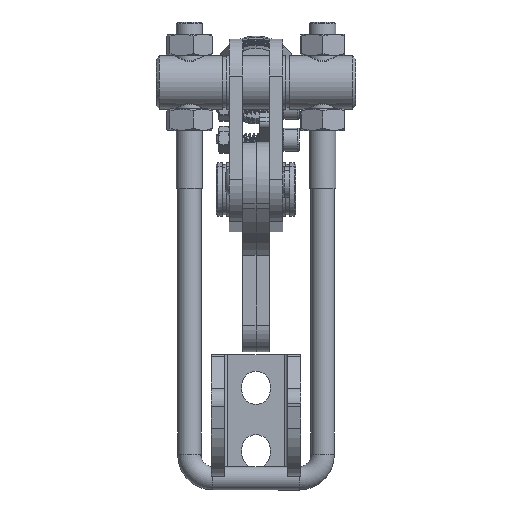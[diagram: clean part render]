
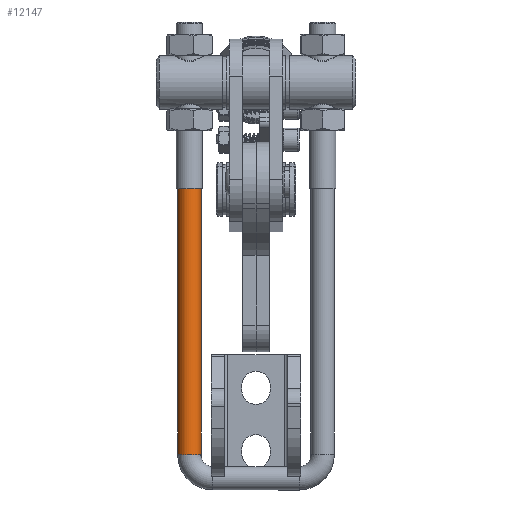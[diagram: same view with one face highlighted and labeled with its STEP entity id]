
A CAD part, left-side view. The second image highlights one B-rep face of the part: STEP entity #12147.
In plain terms, the highlighted cylindrical face has radius 3.5 mm (diameter 7 mm), a partial arc.
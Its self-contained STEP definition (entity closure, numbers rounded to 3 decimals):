
#320 = DIRECTION ( 'NONE',  ( 1., 0., 0. ) ) ;
#1135 = AXIS2_PLACEMENT_3D ( 'NONE', #10364, #320, #35030 ) ;
#1713 = VERTEX_POINT ( 'NONE', #11474 ) ;
#5692 = CARTESIAN_POINT ( 'NONE',  ( 7., 0., 23.5 ) ) ;
#7517 = EDGE_CURVE ( 'NONE', #1713, #17081, #60176, .T. ) ;
#7898 = CIRCLE ( 'NONE', #24484, 3.5 ) ;
#10297 = EDGE_CURVE ( 'NONE', #52150, #1713, #46197, .T. ) ;
#10364 = CARTESIAN_POINT ( 'NONE',  ( 87., 0., 20. ) ) ;
#11474 = CARTESIAN_POINT ( 'NONE',  ( 87., 0., 23.5 ) ) ;
#12147 = ADVANCED_FACE ( 'NONE', ( #32654 ), #44207, .T. ) ;
#12717 = VECTOR ( 'NONE', #46683, 1000. ) ;
#13210 = ORIENTED_EDGE ( 'NONE', *, *, #58636, .T. ) ;
#13699 = AXIS2_PLACEMENT_3D ( 'NONE', #52085, #54266, #37821 ) ;
#17081 = VERTEX_POINT ( 'NONE', #53298 ) ;
#21253 = DIRECTION ( 'NONE',  ( -1., 0., 0. ) ) ;
#23265 = EDGE_CURVE ( 'NONE', #41855, #52150, #7898, .T. ) ;
#24330 = CARTESIAN_POINT ( 'NONE',  ( 7., 0., 23.5 ) ) ;
#24484 = AXIS2_PLACEMENT_3D ( 'NONE', #41352, #21253, #46213 ) ;
#24950 = CARTESIAN_POINT ( 'NONE',  ( 7., 0., 16.5 ) ) ;
#25476 = DIRECTION ( 'NONE',  ( 1., 0., 0. ) ) ;
#27580 = LINE ( 'NONE', #32740, #12717 ) ;
#32654 = FACE_OUTER_BOUND ( 'NONE', #43766, .T. ) ;
#32740 = CARTESIAN_POINT ( 'NONE',  ( 7., 0., 16.5 ) ) ;
#35030 = DIRECTION ( 'NONE',  ( 0., 0., -1. ) ) ;
#37223 = ORIENTED_EDGE ( 'NONE', *, *, #7517, .F. ) ;
#37821 = DIRECTION ( 'NONE',  ( 0., 0., -1. ) ) ;
#41352 = CARTESIAN_POINT ( 'NONE',  ( 7., 0., 20. ) ) ;
#41855 = VERTEX_POINT ( 'NONE', #24950 ) ;
#43766 = EDGE_LOOP ( 'NONE', ( #59949, #53665, #13210, #37223 ) ) ;
#44207 = CYLINDRICAL_SURFACE ( 'NONE', #13699, 3.5 ) ;
#46197 = LINE ( 'NONE', #5692, #60219 ) ;
#46213 = DIRECTION ( 'NONE',  ( 0., 0., 1. ) ) ;
#46683 = DIRECTION ( 'NONE',  ( 1., 0., 0. ) ) ;
#52085 = CARTESIAN_POINT ( 'NONE',  ( 7., 0., 20. ) ) ;
#52150 = VERTEX_POINT ( 'NONE', #24330 ) ;
#53298 = CARTESIAN_POINT ( 'NONE',  ( 87., 0., 16.5 ) ) ;
#53665 = ORIENTED_EDGE ( 'NONE', *, *, #23265, .F. ) ;
#54266 = DIRECTION ( 'NONE',  ( 1., 0., 0. ) ) ;
#58636 = EDGE_CURVE ( 'NONE', #41855, #17081, #27580, .T. ) ;
#59949 = ORIENTED_EDGE ( 'NONE', *, *, #10297, .F. ) ;
#60176 = CIRCLE ( 'NONE', #1135, 3.5 ) ;
#60219 = VECTOR ( 'NONE', #25476, 1000. ) ;
